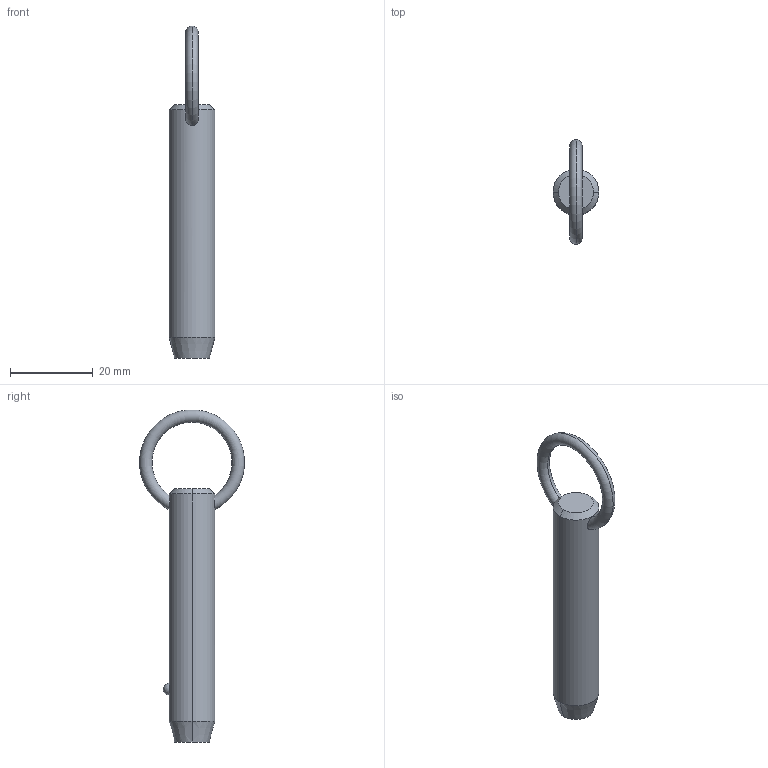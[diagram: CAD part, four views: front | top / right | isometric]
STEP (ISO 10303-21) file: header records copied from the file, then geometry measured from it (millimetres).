
FILE_DESCRIPTION (( 'STEP AP203' ), '1' );
FILE_NAME ('P1250.050-160.step', '2019-07-29T20:30:20', ( '' ), ( '' ), 'SwSTEP 2.0', 'SolidWorks 2017', '' );
FILE_SCHEMA (( 'CONFIG_CONTROL_DESIGN' ));
Length unit declared in the file: millimetre
Products named in the file (1): P1250.050-160
Bounding box: 11.1 x 25.32 x 80.25 mm (x, y, z)
Volume: 6214.6 mm3; surface area: 2790.3 mm2
Topology: 1 solids, 1 shells, 12 faces, 28 edges, 17 vertices
Faces by surface type: cone 4, torus 2, sphere 2, cylinder 2, plane 2
Entity records: 523 total; most frequent: CARTESIAN_POINT 190, DIRECTION 56, ORIENTED_EDGE 48, AXIS2_PLACEMENT_3D 25, EDGE_CURVE 24, EDGE_LOOP 15, VERTEX_POINT 15, CIRCLE 12
